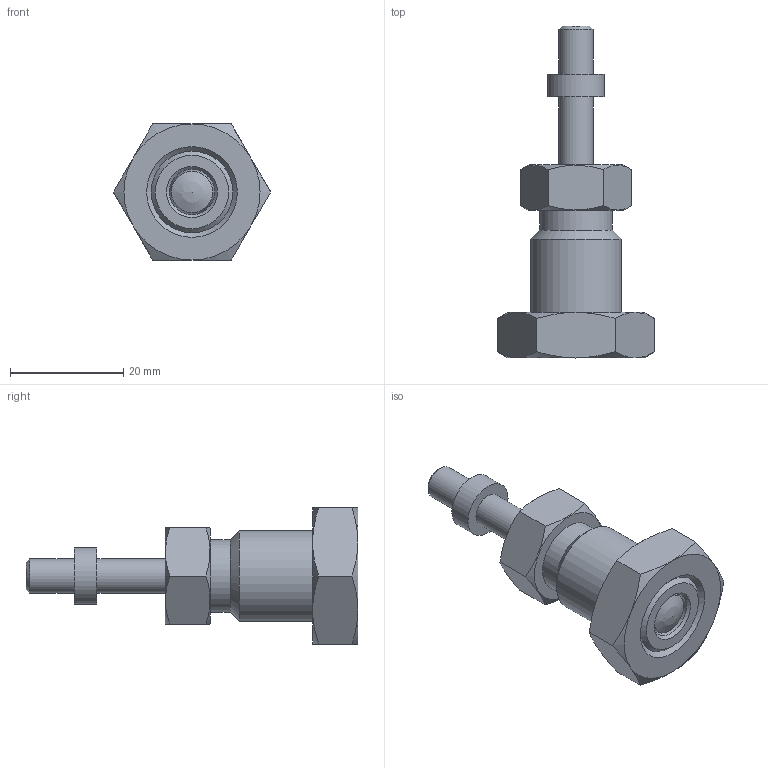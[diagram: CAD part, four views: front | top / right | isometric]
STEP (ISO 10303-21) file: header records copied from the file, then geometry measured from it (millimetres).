
FILE_DESCRIPTION( ( 'STEP AP203' ), '1' );
FILE_NAME( 'C:/Temp/Ganter_Step_05_03_2020/data/3_1/gn817/gn817_ni-rastbolzen/Stainless Steel-Indexing plunger GN 817-8-12-GK-NI (activated-0).stp', '2020-03-12T09:00:05', ( 'License CC BY-ND 4.0' ), ( 'CADENAS' ), ' ', 'PARTsolutions', ' ' );
FILE_SCHEMA( ( 'CONFIG_CONTROL_DESIGN' ) );
Length unit declared in the file: millimetre
Products named in the file (5): Stainless Steel-Indexing plunger GN 817-8-12-GK-NI (activated-0); _Stainless steel-Indexing plunger GN 817-8-12-GK-NI (activated-0)-d; _Stainless steel-Indexing plunger GN 817-8-12-B-NI-2; _Stainless Steel-Indexing plunger GN 817-8-12-G-NI-6; _Stainless steel-Indexing plunger GN 817-8-12-BK-NI (deactivated-0)-3
Assembly tree (4 placements, depth 2):
  Stainless Steel-Indexing plunger GN 817-8-12-GK-NI (activated-0)
    _Stainless steel-Indexing plunger GN 817-8-12-GK-NI (activated-0)-d
    _Stainless steel-Indexing plunger GN 817-8-12-B-NI-2
    _Stainless Steel-Indexing plunger GN 817-8-12-G-NI-6
    _Stainless steel-Indexing plunger GN 817-8-12-BK-NI (deactivated-0)-3
Bounding box: 27.71 x 58.5 x 24 mm (x, y, z)
Volume: 10331.1 mm3; surface area: 6136.1 mm2
Topology: 3 solids, 3 shells, 56 faces, 113 edges, 68 vertices
Faces by surface type: plane 22, cone 22, cylinder 9, torus 2, sphere 1
Full cylindrical faces by diameter (mm): 6 x3, 8 x2, 10 x1, 12.8 x1, 14.376 x1, 16 x1
Entity records: 1688 total; most frequent: CARTESIAN_POINT 485, DIRECTION 216, ORIENTED_EDGE 178, AXIS2_PLACEMENT_3D 102, EDGE_CURVE 89, EDGE_LOOP 86, FACE_OUTER_BOUND 67, VERTEX_POINT 66
